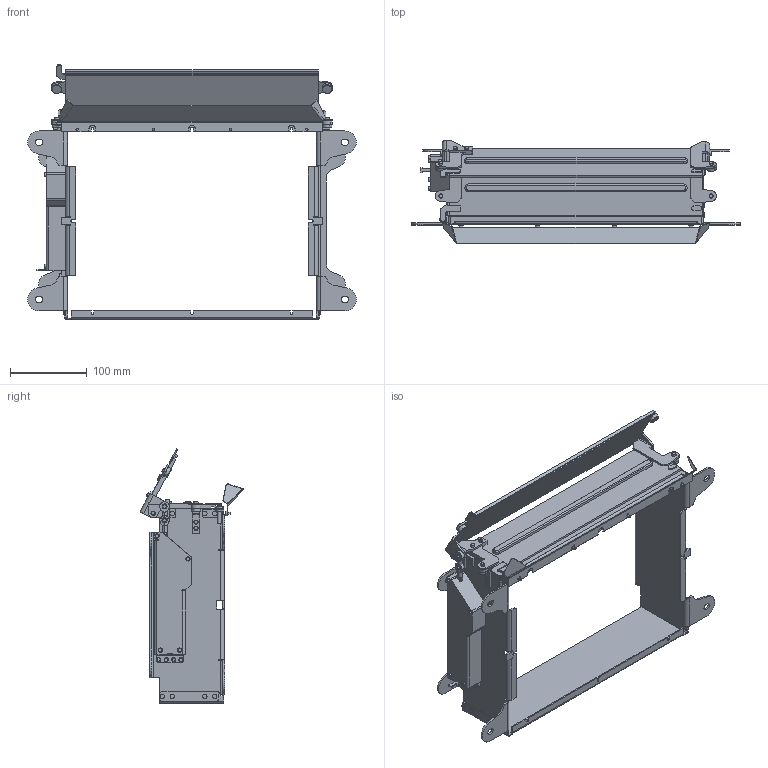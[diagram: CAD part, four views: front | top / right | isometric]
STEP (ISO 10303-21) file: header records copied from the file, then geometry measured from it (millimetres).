
FILE_DESCRIPTION (( 'STEP AP203' ), '1' );
FILE_NAME ('Asyril_PLATFORM FRAME RIGHT PURGE H=85mm - 380_000.103.789_(option).STEP', '2020-10-08T13:08:59', ( '' ), ( '' ), 'SwSTEP 2.0', 'SolidWorks 2017', '' );
FILE_SCHEMA (( 'CONFIG_CONTROL_DESIGN' ));
Length unit declared in the file: millimetre
Products named in the file (3): Asyril_PLATFORM FRAME RIGHT PURGE H=85mm - 380_000.103.789_OPEN_(option); Asyril_PLATFORM FRAME RIGHT PURGE H=85mm - 380_000.103.789_CLOSED_(option); Asyril_PLATFORM FRAME RIGHT PURGE H=85mm - 380_000.103.789_(option)
Assembly tree (2 placements, depth 2):
  Asyril_PLATFORM FRAME RIGHT PURGE H=85mm - 380_000.103.789_(option)
    Asyril_PLATFORM FRAME RIGHT PURGE H=85mm - 380_000.103.789_CLOSED_(option)
    Asyril_PLATFORM FRAME RIGHT PURGE H=85mm - 380_000.103.789_OPEN_(option)
Bounding box: 428.99 x 135.28 x 332.36 mm (x, y, z)
Volume: 1041715.8 mm3; surface area: 628601.8 mm2
Topology: 4 solids, 4 shells, 1916 faces, 4849 edges, 3041 vertices
Faces by surface type: plane 957, cylinder 743, cone 116, torus 76, bspline 24
Entity records: 59031 total; most frequent: CARTESIAN_POINT 11351, DIRECTION 10410, ORIENTED_EDGE 9698, EDGE_CURVE 4849, AXIS2_PLACEMENT_3D 3788, VERTEX_POINT 3041, LINE 2834, VECTOR 2834
